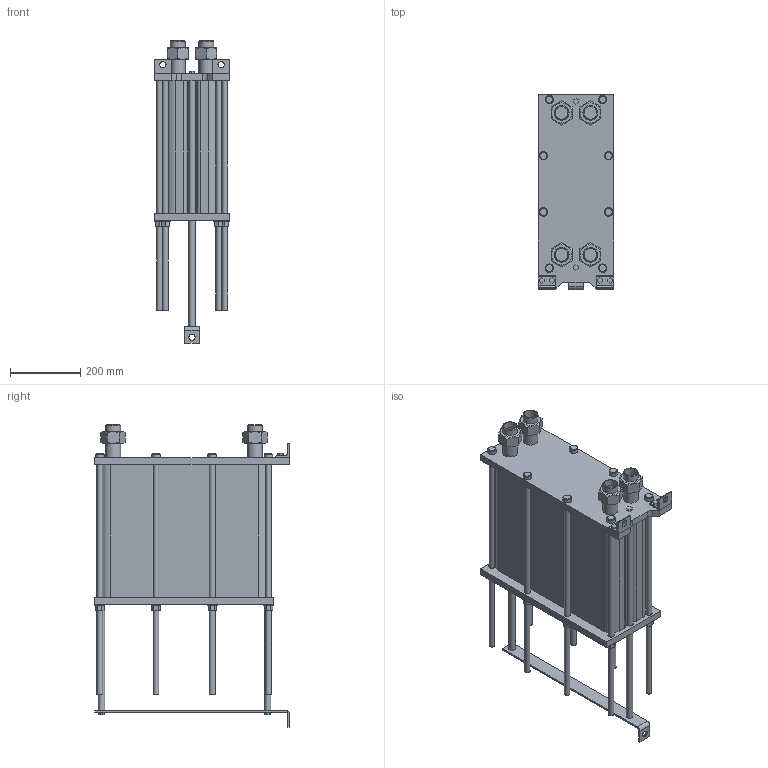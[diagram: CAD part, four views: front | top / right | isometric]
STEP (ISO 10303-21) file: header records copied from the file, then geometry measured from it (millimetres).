
FILE_DESCRIPTION(/* description */ (''),/* implementation_level */ '2;1');
FILE_NAME(/* name */ 'C:\Users\zhuro\Desktop\ENCO\TO\ЭН-004\ЭН-0,5-004-122-1.stp',/* time_stamp */ '2022-06-06T10:54:48+03:00',/* author */ ('zhuro'),/* organization */ (''),/* preprocessor_version */ 'ST-DEVELOPER v18.1',/* originating_system */ 'Autodesk Inventor 2022',/* authorisation */ '');
FILE_SCHEMA (('AUTOMOTIVE_DESIGN { 1 0 10303 214 3 1 1 }'));
Length unit declared in the file: millimetre
Products named in the file (1): ЭН-0,5-004-122-1
Bounding box: 216 x 555 x 862.6 mm (x, y, z)
Volume: 34195321.1 mm3; surface area: 1777451.9 mm2
Topology: 40 solids, 40 shells, 403 faces, 865 edges, 574 vertices
Faces by surface type: plane 272, cylinder 103, cone 28
Full cylindrical faces by diameter (mm): 10 x4, 16 x16, 18 x29, 20 x2, 24 x8, 28 x8, 36.3 x5, 42.3 x9
Entity records: 11137 total; most frequent: CARTESIAN_POINT 1939, DIRECTION 1879, ORIENTED_EDGE 1730, EDGE_CURVE 865, AXIS2_PLACEMENT_3D 658, VERTEX_POINT 574, LINE 563, VECTOR 563
